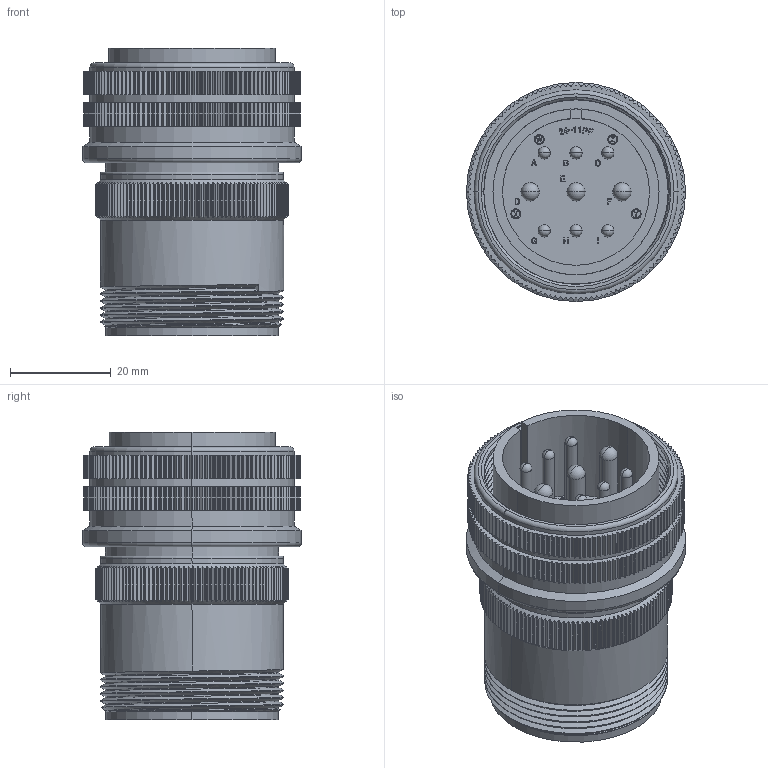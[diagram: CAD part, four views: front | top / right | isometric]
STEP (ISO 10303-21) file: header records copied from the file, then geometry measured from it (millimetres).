
FILE_DESCRIPTION (( 'STEP AP203' ), '1' );
FILE_NAME ('DMS3106A24-11P.STEP', '2017-11-15T00:21:26', ( '' ), ( '' ), 'SwSTEP 2.0', 'SolidWorks 2015', '' );
FILE_SCHEMA (( 'CONFIG_CONTROL_DESIGN' ));
Length unit declared in the file: millimetre
Products named in the file (1): DMS3106A24-11P
Bounding box: 43.58 x 43.58 x 57.14 mm (x, y, z)
Volume: 30565.6 mm3; surface area: 26348.8 mm2
Topology: 1 solids, 1 shells, 3405 faces, 9812 edges, 6499 vertices
Faces by surface type: cylinder 1898, plane 1260, bspline 178, torus 43, cone 20, sphere 6
Entity records: 127277 total; most frequent: CARTESIAN_POINT 38939, ORIENTED_EDGE 19600, DIRECTION 17532, EDGE_CURVE 9800, VERTEX_POINT 6493, AXIS2_PLACEMENT_3D 6251, VECTOR 5030, LINE 5030
